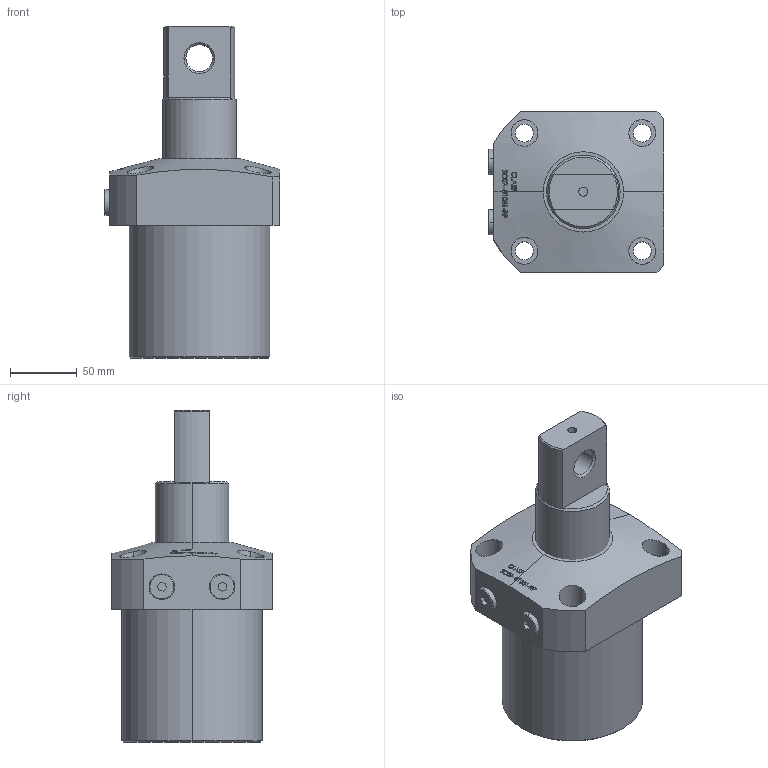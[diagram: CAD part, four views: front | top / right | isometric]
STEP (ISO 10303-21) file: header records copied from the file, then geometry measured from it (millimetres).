
FILE_DESCRIPTION (( 'STEP AP203' ), '1' );
FILE_NAME ('SC07-01051-RP.STEP', '2022-07-08T16:59:50', ( '' ), ( '' ), 'SwSTEP 2.0', 'SolidWorks 2017', '' );
FILE_SCHEMA (( 'CONFIG_CONTROL_DESIGN' ));
Length unit declared in the file: millimetre
Products named in the file (4): SC-07-01051-RP-Piston; SC-07-01051-RP-05 plug; SC07-01051-RP; SC-07-01051-RP BODY
Assembly tree (4 placements, depth 2):
  SC07-01051-RP
    SC-07-01051-RP BODY
    SC-07-01051-RP-Piston
    SC-07-01051-RP-05 plug  x2
Bounding box: 131 x 120 x 248 mm (x, y, z)
Volume: 1711164 mm3; surface area: 118201.2 mm2
Topology: 4 solids, 4 shells, 333 faces, 835 edges, 551 vertices
Faces by surface type: plane 153, bspline 100, cylinder 51, cone 29
Entity records: 15953 total; most frequent: CARTESIAN_POINT 8648, ORIENTED_EDGE 1606, DIRECTION 1042, EDGE_CURVE 803, VERTEX_POINT 531, VECTOR 378, LINE 378, EDGE_LOOP 370
